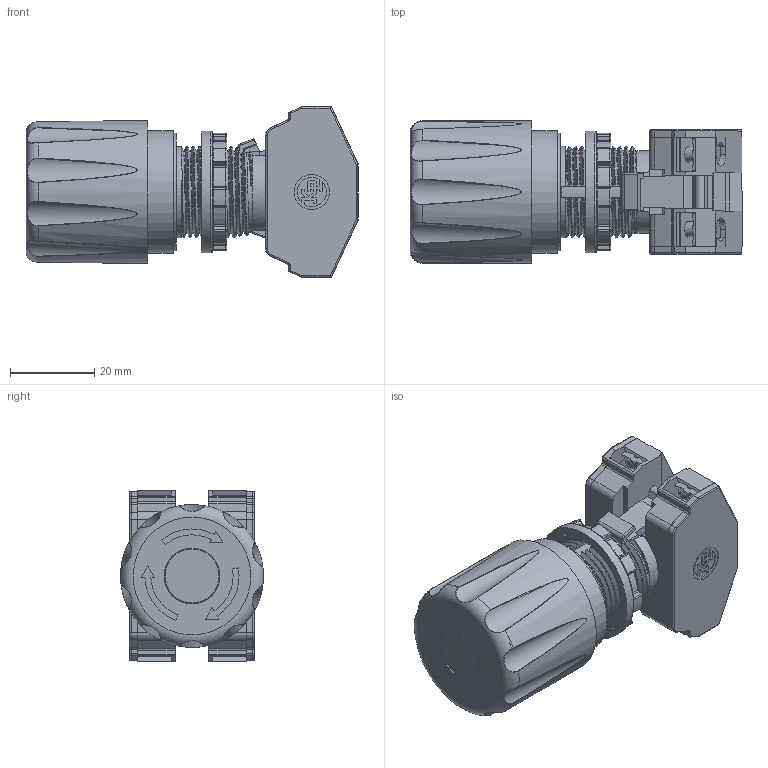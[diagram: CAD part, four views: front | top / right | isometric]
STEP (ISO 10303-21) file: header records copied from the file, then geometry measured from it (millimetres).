
FILE_DESCRIPTION(('Emergencia Compacto com Trava Empurrar/Girar R22 1NA+1NF ou 2NF'),'2;1');
FILE_NAME('K:\Workfolder\Bibl\3DWeb\Serie\C9\kp_c9_c9ek_2Cont_step.stp','2011-04-02T14:50:49',('DIE'),('KAP'),'Autodesk Inventor 2011','Autodesk Inventor 2011','Direitos reservados. Proibido reproducao, cedencia ou revelacao de conteudo a terceiros, salvo com autorizacao. ');
FILE_SCHEMA(('AUTOMOTIVE_DESIGN { 1 0 10303 214 1 1 1 1 }'));
Length unit declared in the file: millimetre
Products named in the file (3): C9EK_2Cont; C9EK; C9AB_2Cont
Assembly tree (2 placements, depth 2):
  C9EK_2Cont
    C9EK
    C9AB_2Cont
Bounding box: 79 x 34 x 40.6 mm (x, y, z)
Volume: 53572.5 mm3; surface area: 20971.7 mm2
Topology: 3 solids, 16 shells, 1812 faces, 4894 edges, 3054 vertices
Faces by surface type: plane 965, cylinder 533, torus 123, bspline 106, sphere 57, cone 28
Full cylindrical faces by diameter (mm): 2.8 x4, 3 x4, 3.1 x4, 3.3 x4, 3.5 x4, 3.6 x1, 3.7 x4, 8.4 x1, 9 x1, 9.2 x1, 13.2 x1, 13.3 x1, 21.85 x1, 22 x1, 22.491 x3, 26 x1, 28 x1, 29 x1, 29.2 x1, 34 x1
Entity records: 64527 total; most frequent: CARTESIAN_POINT 17691, ORIENTED_EDGE 9514, DIRECTION 9290, EDGE_CURVE 4757, AXIS2_PLACEMENT_3D 3143, VERTEX_POINT 3026, VECTOR 3004, LINE 3004
